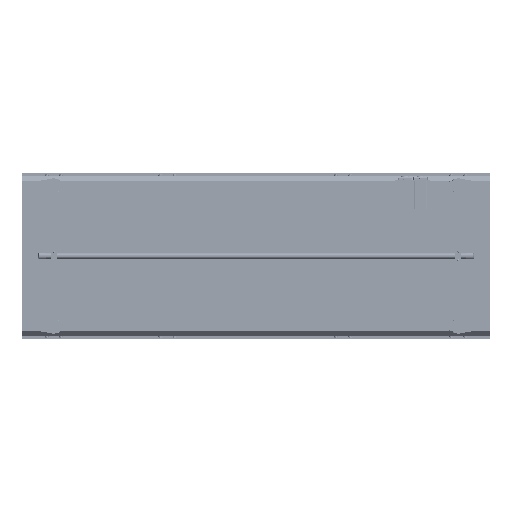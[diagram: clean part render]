
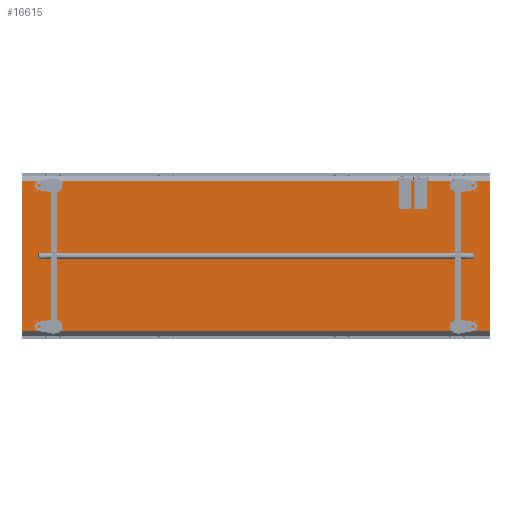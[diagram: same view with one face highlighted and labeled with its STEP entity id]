
A CAD part, front view. The second image highlights one B-rep face of the part: STEP entity #16615.
In plain terms, the highlighted planar face has unit normal (0, -1, 0).
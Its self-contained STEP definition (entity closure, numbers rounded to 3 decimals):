
#2147 = ORIENTED_EDGE ( 'NONE', *, *, #8357, .T. ) ;
#3250 = CARTESIAN_POINT ( 'NONE',  ( 2705.933, -215.213, 319.787 ) ) ;
#4035 = VECTOR ( 'NONE', #123979, 1000. ) ;
#8357 = EDGE_CURVE ( 'NONE', #39852, #73087, #78271, .T. ) ;
#13458 = CARTESIAN_POINT ( 'NONE',  ( 0., -215.213, 319.787 ) ) ;
#16615 = ADVANCED_FACE ( 'NONE', ( #79913 ), #64996, .F. ) ;
#18652 = CARTESIAN_POINT ( 'NONE',  ( 1985., -215.213, -319.787 ) ) ;
#20731 = LINE ( 'NONE', #18652, #4035 ) ;
#24331 = EDGE_CURVE ( 'NONE', #65219, #114406, #115366, .T. ) ;
#25426 = EDGE_CURVE ( 'NONE', #39852, #114406, #20731, .T. ) ;
#34445 = ORIENTED_EDGE ( 'NONE', *, *, #24331, .T. ) ;
#39852 = VERTEX_POINT ( 'NONE', #71631 ) ;
#50796 = CARTESIAN_POINT ( 'NONE',  ( 0., -215.213, 319.787 ) ) ;
#58260 = CARTESIAN_POINT ( 'NONE',  ( 1985., -215.213, 319.787 ) ) ;
#58645 = ORIENTED_EDGE ( 'NONE', *, *, #76817, .T. ) ;
#64996 = PLANE ( 'NONE',  #79907 ) ;
#65219 = VERTEX_POINT ( 'NONE', #13458 ) ;
#65840 = DIRECTION ( 'NONE',  ( 0., 1., 0. ) ) ;
#68453 = DIRECTION ( 'NONE',  ( 0., 0., 1. ) ) ;
#71631 = CARTESIAN_POINT ( 'NONE',  ( 1985., -215.213, -319.787 ) ) ;
#72167 = VECTOR ( 'NONE', #68453, 1000. ) ;
#73087 = VERTEX_POINT ( 'NONE', #83221 ) ;
#76817 = EDGE_CURVE ( 'NONE', #73087, #65219, #114912, .T. ) ;
#78271 = LINE ( 'NONE', #58260, #72167 ) ;
#79907 = AXIS2_PLACEMENT_3D ( 'NONE', #104051, #65840, #84061 ) ;
#79913 = FACE_OUTER_BOUND ( 'NONE', #80611, .T. ) ;
#80611 = EDGE_LOOP ( 'NONE', ( #98500, #2147, #58645, #34445 ) ) ;
#81787 = DIRECTION ( 'NONE',  ( -1., 0., 0. ) ) ;
#83221 = CARTESIAN_POINT ( 'NONE',  ( 1985., -215.213, 319.787 ) ) ;
#84061 = DIRECTION ( 'NONE',  ( 0., 0., 1. ) ) ;
#91108 = VECTOR ( 'NONE', #98723, 1000. ) ;
#98500 = ORIENTED_EDGE ( 'NONE', *, *, #25426, .F. ) ;
#98723 = DIRECTION ( 'NONE',  ( 0., 0., -1. ) ) ;
#104051 = CARTESIAN_POINT ( 'NONE',  ( 2705.933, -215.213, 319.787 ) ) ;
#113420 = VECTOR ( 'NONE', #81787, 1000. ) ;
#114406 = VERTEX_POINT ( 'NONE', #123563 ) ;
#114912 = LINE ( 'NONE', #3250, #113420 ) ;
#115366 = LINE ( 'NONE', #50796, #91108 ) ;
#123563 = CARTESIAN_POINT ( 'NONE',  ( 0., -215.213, -319.787 ) ) ;
#123979 = DIRECTION ( 'NONE',  ( -1., 0., 0. ) ) ;
